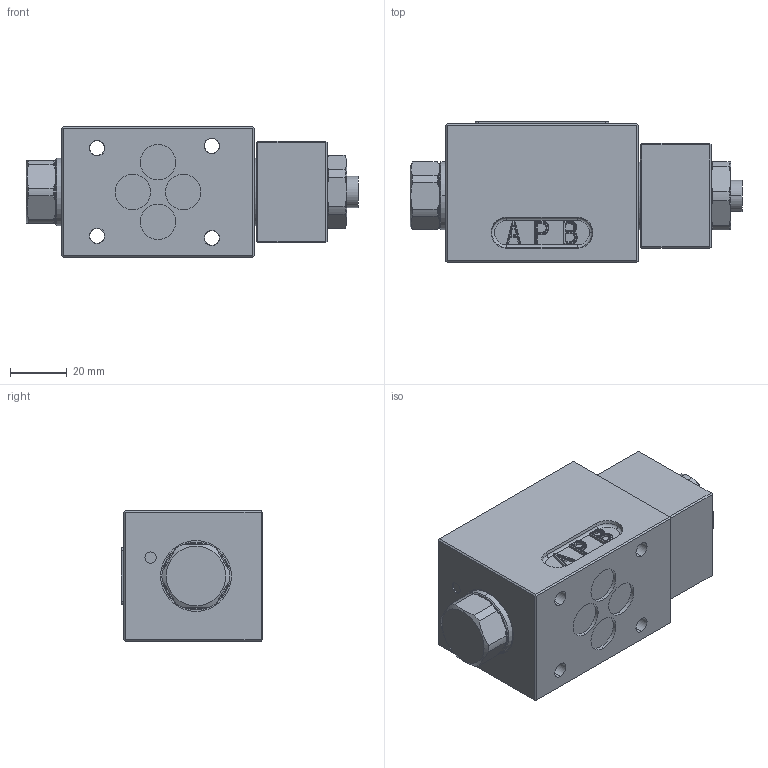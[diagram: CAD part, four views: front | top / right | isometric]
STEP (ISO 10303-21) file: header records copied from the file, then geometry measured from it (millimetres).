
FILE_DESCRIPTION (( 'STEP AP214' ), '1' );
FILE_NAME ('WFAFA06-..2.STEP', '2022-07-05T09:54:56', ( '' ), ( '' ), 'SwSTEP 2.0', 'SolidWorks 2020', '' );
FILE_SCHEMA (( 'AUTOMOTIVE_DESIGN' ));
Length unit declared in the file: millimetre
Products named in the file (1): WFAFA06-..2
Bounding box: 117.2 x 49.8 x 46 mm (x, y, z)
Volume: 188221.4 mm3; surface area: 29095.7 mm2
Topology: 1 solids, 1 shells, 441 faces, 1053 edges, 637 vertices
Faces by surface type: plane 168, cylinder 151, cone 40, bspline 36, torus 28, sphere 18
Entity records: 19393 total; most frequent: CARTESIAN_POINT 4532, DIRECTION 2084, ORIENTED_EDGE 2068, EDGE_CURVE 1034, AXIS2_PLACEMENT_3D 792, VERTEX_POINT 637, LINE 500, VECTOR 500
